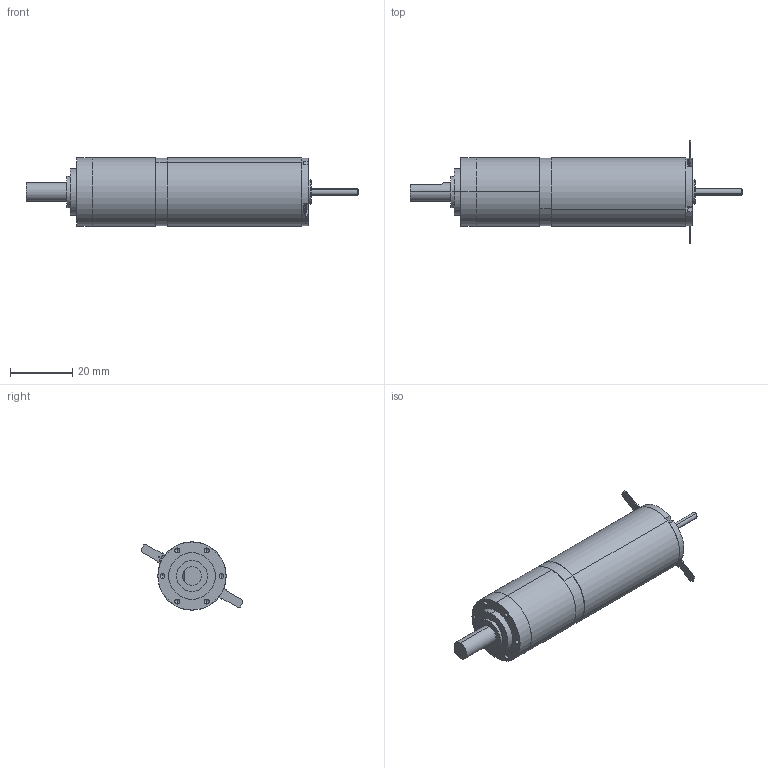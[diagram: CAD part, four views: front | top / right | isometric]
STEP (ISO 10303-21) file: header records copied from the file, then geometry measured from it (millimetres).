
FILE_DESCRIPTION (( 'STEP AP214' ), '1' );
FILE_NAME ('DCX22LG + GP22HP-1 étage.STEP', '2014-10-13T15:07:36', ( '' ), ( '' ), 'SwSTEP 2.0', 'SolidWorks 2013', '' );
FILE_SCHEMA (( 'AUTOMOTIVE_DESIGN' ));
Length unit declared in the file: millimetre
Products named in the file (18): 8; 7; 6; 1228536; 5; 4; 3; 2; 1; GP22HP_1-STUFIG-370685; DCX22LG + GP22HP-1 étage; DCX22LG; 14; 13; 12; 11; 10; 9
Assembly tree (17 placements, depth 3):
  DCX22LG + GP22HP-1 étage
    GP22HP_1-STUFIG-370685
    DCX22LG
      1
      2
      3
      4
      5
      1228536
      6
      7
      8
      9
      10
      11
      12
      13
      14
Bounding box: 106.95 x 32.86 x 22 mm (x, y, z)
Volume: 26115 mm3; surface area: 12603.9 mm2
Topology: 16 solids, 16 shells, 856 faces, 2047 edges, 1268 vertices
Faces by surface type: cylinder 320, plane 261, cone 192, bspline 83
Entity records: 37831 total; most frequent: CARTESIAN_POINT 8045, DIRECTION 4452, ORIENTED_EDGE 4066, EDGE_CURVE 2033, AXIS2_PLACEMENT_3D 1722, VERTEX_POINT 1268, LINE 1008, VECTOR 1008
